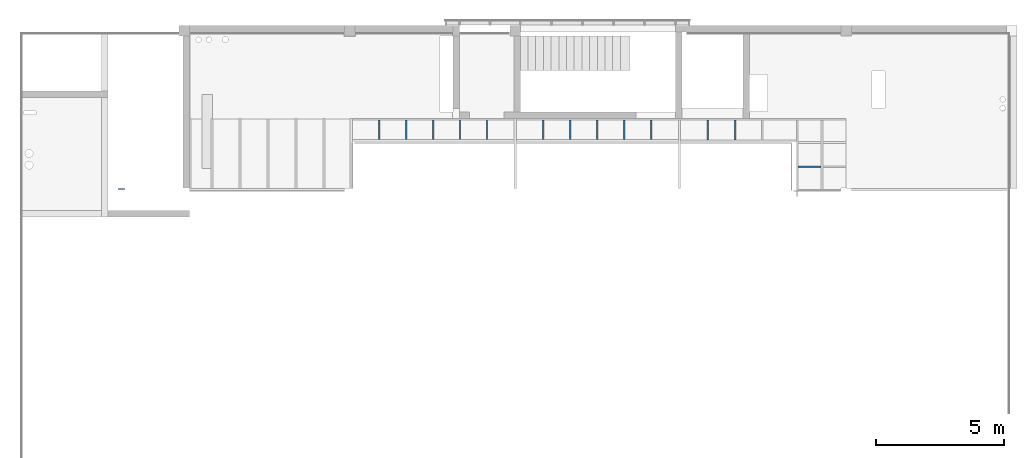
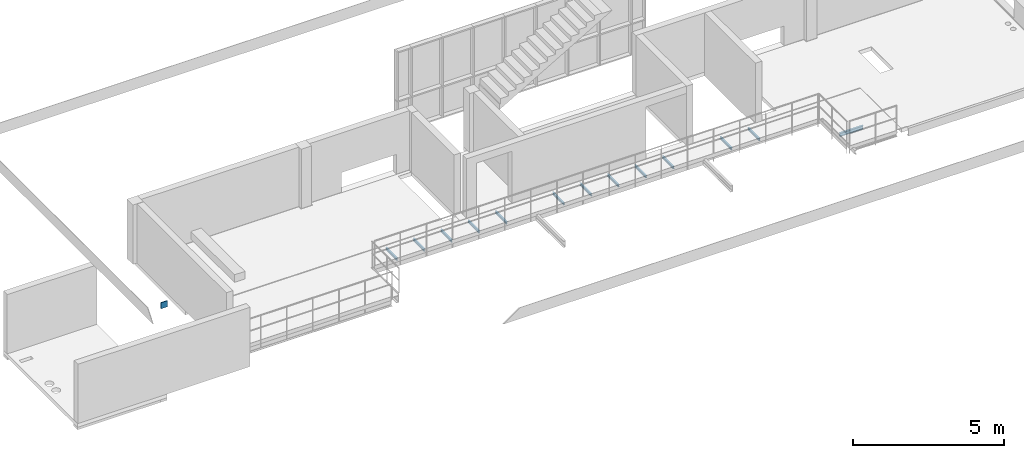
# One storey, part 4 of 8: 14 beams.
"""IFC2X3 building model written with IfcOpenShell, lengths in centimetres."""

from ifc_helpers import new_model, entity, si_unit, converted_unit, derived_unit, direction, frame, frame_2d, origin, origin_2d_with_axis, place, context, subcontext, project, spatial, rectangle, i_section, extrude, material, type_object, element, save


model = new_model("IFC2X3")

# Units and contexts
model_context = context("Model", 3, precision=0.001, world=origin(), true_north=direction((6.12303176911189e-17, 1.0)))
body_context = subcontext(model_context, "Body", "Model", "MODEL_VIEW")
ifc_project = project(units=[si_unit("LENGTHUNIT", "METRE", prefix="CENTI"), si_unit("AREAUNIT", "SQUARE_METRE"), si_unit("VOLUMEUNIT", "CUBIC_METRE"), converted_unit("PLANEANGLEUNIT", "DEGREE", entity("IfcRatioMeasure", 0.0174532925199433), si_unit("PLANEANGLEUNIT", "RADIAN"), dimensions=[0, 0, 0, 0, 0, 0, 0]), si_unit("MASSUNIT", "GRAM", prefix="KILO"), derived_unit("MASSDENSITYUNIT", [(si_unit("MASSUNIT", "GRAM", prefix="KILO"), 1), (si_unit("LENGTHUNIT", "METRE"), -3)]), derived_unit("MOMENTOFINERTIAUNIT", [(si_unit("LENGTHUNIT", "METRE"), 4)]), si_unit("TIMEUNIT", "SECOND"), si_unit("FREQUENCYUNIT", "HERTZ"), si_unit("THERMODYNAMICTEMPERATUREUNIT", "DEGREE_CELSIUS"), derived_unit("THERMALTRANSMITTANCEUNIT", [(si_unit("MASSUNIT", "GRAM", prefix="KILO"), 1), (si_unit("THERMODYNAMICTEMPERATUREUNIT", "KELVIN"), -1), (si_unit("TIMEUNIT", "SECOND"), -3)]), derived_unit("VOLUMETRICFLOWRATEUNIT", [(si_unit("LENGTHUNIT", "METRE"), 3), (si_unit("TIMEUNIT", "SECOND"), -1)]), si_unit("ELECTRICCURRENTUNIT", "AMPERE"), si_unit("ELECTRICVOLTAGEUNIT", "VOLT"), si_unit("POWERUNIT", "WATT"), si_unit("FORCEUNIT", "NEWTON", prefix="KILO"), si_unit("ILLUMINANCEUNIT", "LUX"), si_unit("LUMINOUSFLUXUNIT", "LUMEN"), si_unit("LUMINOUSINTENSITYUNIT", "CANDELA"), derived_unit("USERDEFINED", [(si_unit("MASSUNIT", "GRAM", prefix="KILO"), -1), (si_unit("LENGTHUNIT", "METRE"), -2), (si_unit("TIMEUNIT", "SECOND"), 3), (si_unit("LUMINOUSFLUXUNIT", "LUMEN"), 1)]), derived_unit("LINEARVELOCITYUNIT", [(si_unit("LENGTHUNIT", "METRE"), 1), (si_unit("TIMEUNIT", "SECOND"), -1)]), si_unit("PRESSUREUNIT", "PASCAL"), derived_unit("USERDEFINED", [(si_unit("LENGTHUNIT", "METRE"), -2), (si_unit("MASSUNIT", "GRAM", prefix="KILO"), 1), (si_unit("TIMEUNIT", "SECOND"), -2)]), derived_unit("LINEARFORCEUNIT", [(si_unit("MASSUNIT", "GRAM", prefix="KILO"), 1), (si_unit("LENGTHUNIT", "METRE"), 1), (si_unit("TIMEUNIT", "SECOND"), -2), (si_unit("LENGTHUNIT", "METRE"), -1)]), derived_unit("PLANARFORCEUNIT", [(si_unit("MASSUNIT", "GRAM", prefix="KILO"), 1), (si_unit("LENGTHUNIT", "METRE"), 1), (si_unit("TIMEUNIT", "SECOND"), -2), (si_unit("LENGTHUNIT", "METRE"), -2)])], contexts=[model_context])

# Site, building, storey
site_placement = place(None, origin())
site = spatial("IfcSite", under=ifc_project, at=site_placement, Name="Default", CompositionType="ELEMENT")
building_placement = place(site_placement, origin())
building = spatial("IfcBuilding", under=site, at=building_placement, CompositionType="ELEMENT")
storey_placement = place(building_placement, frame((0.0, 0.0, 290.0)))
storey = spatial("IfcBuildingStorey", under=building, at=storey_placement, Name="Poziom Antresola +2,90", CompositionType="ELEMENT", Elevation=290.0)

# Beams
ifc_material_1 = material(Name="_Beton C30/37")
beam_type_1 = type_object("IfcBeamType", Name="Beton-belka prostokątna:wieniec 25x25", PredefinedType="BEAM", material=ifc_material_1)
beam_1_placement = place(storey_placement, frame((-2249.26511921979, 1467.76745194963, 0.0), z_axis=(0.0, 0.0, 1.0), x_axis=(0.0, 1.0, 0.0)))
element("IfcBeam", 1, at=beam_1_placement, inside=storey, type_object=beam_type_1, material=ifc_material_1, Name="Beton-belka prostokątna:wieniec 25x25", ObjectType="Beton-belka prostokątna:wieniec 25x25", context=body_context, shape_type="SweptSolid", body=[
    extrude(rectangle(XDim=24.9999999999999, YDim=25.0000000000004, at=origin_2d_with_axis()), frame((0.0, 265.0, 277.5), z_axis=(1.0, 0.0, 0.0), x_axis=(0.0, 0.0, -1.0)), (0.0, 0.0, 1.0), 2.49999999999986),
])
ifc_material_2 = material(Name="Stal konstrukcyjna - S235")
beam_type_2 = type_object("IfcBeamType", Name="IPE:IPE100", PredefinedType="NOTDEFINED")
beam_2_placement = place(storey_placement, frame((-1509.26511967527, 1645.4874521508, 0.0), z_axis=(0.0, 0.0, 1.0), x_axis=(0.0, 1.0, 0.0)))
element("IfcBeam", 2, at=beam_2_placement, inside=storey, type_object=beam_type_2, material=ifc_material_2, Name="IPE:IPE100", ObjectType="IPE:IPE100", context=body_context, shape_type="SweptSolid", body=[
    extrude(i_section(OverallWidth=5.50000000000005, OverallDepth=10.0, WebThickness=0.410000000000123, FlangeThickness=0.570000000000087, FilletRadius=0.700000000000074, at=frame_2d((5.41788836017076e-14, 0.0), x_axis=(0.0, 1.0))), frame((16.6399999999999, 0.0, -8.0), z_axis=(1.0, 0.0, 0.0), x_axis=(0.0, 0.0, -1.0)), (0.0, 0.0, 1.0), 74.5000001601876),
])
beam_3_placement = place(storey_placement, frame((-1404.26511967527, 1645.4874521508, 0.0), z_axis=(0.0, 0.0, 1.0), x_axis=(0.0, 1.0, 0.0)))
element("IfcBeam", 3, at=beam_3_placement, inside=storey, type_object=beam_type_2, material=ifc_material_2, Name="IPE:IPE100", ObjectType="IPE:IPE100", context=body_context, shape_type="SweptSolid", body=[
    extrude(i_section(OverallWidth=5.50000000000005, OverallDepth=10.0, WebThickness=0.410000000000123, FlangeThickness=0.570000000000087, FilletRadius=0.700000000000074, at=frame_2d((5.41788836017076e-14, 0.0), x_axis=(0.0, 1.0))), frame((16.6400000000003, 0.0, -8.0), z_axis=(1.0, 0.0, 0.0), x_axis=(0.0, 0.0, -1.0)), (0.0, 0.0, 1.0), 74.5000001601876),
])
beam_4_placement = place(storey_placement, frame((-1299.26511967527, 1645.4874521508, 0.0), z_axis=(0.0, 0.0, 1.0), x_axis=(0.0, 1.0, 0.0)))
element("IfcBeam", 4, at=beam_4_placement, inside=storey, type_object=beam_type_2, material=ifc_material_2, Name="IPE:IPE100", ObjectType="IPE:IPE100", context=body_context, shape_type="SweptSolid", body=[
    extrude(i_section(OverallWidth=5.50000000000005, OverallDepth=10.0, WebThickness=0.410000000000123, FlangeThickness=0.570000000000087, FilletRadius=0.700000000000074, at=frame_2d((5.41788836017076e-14, 0.0), x_axis=(0.0, 1.0))), frame((16.6399999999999, 0.0, -8.0), z_axis=(1.0, 0.0, 0.0), x_axis=(0.0, 0.0, -1.0)), (0.0, 0.0, 1.0), 74.5000001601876),
])
beam_5_placement = place(storey_placement, frame((-1194.26511967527, 1645.4874521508, 0.0), z_axis=(0.0, 0.0, 1.0), x_axis=(0.0, 1.0, 0.0)))
element("IfcBeam", 5, at=beam_5_placement, inside=storey, type_object=beam_type_2, material=ifc_material_2, Name="IPE:IPE100", ObjectType="IPE:IPE100", context=body_context, shape_type="SweptSolid", body=[
    extrude(i_section(OverallWidth=5.50000000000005, OverallDepth=10.0, WebThickness=0.410000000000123, FlangeThickness=0.570000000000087, FilletRadius=0.700000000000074, at=frame_2d((5.41788836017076e-14, 2.16715534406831e-13), x_axis=(0.0, 1.0))), frame((16.6399999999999, 0.0, -8.0), z_axis=(1.0, 0.0, 0.0), x_axis=(0.0, 0.0, -1.0)), (0.0, 0.0, 1.0), 74.5000001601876),
])
beam_6_placement = place(storey_placement, frame((-1089.26511967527, 1645.4874521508, 0.0), z_axis=(0.0, 0.0, 1.0), x_axis=(0.0, 1.0, 0.0)))
element("IfcBeam", 6, at=beam_6_placement, inside=storey, type_object=beam_type_2, material=ifc_material_2, Name="IPE:IPE100", ObjectType="IPE:IPE100", context=body_context, shape_type="SweptSolid", body=[
    extrude(i_section(OverallWidth=5.50000000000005, OverallDepth=10.0, WebThickness=0.410000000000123, FlangeThickness=0.570000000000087, FilletRadius=0.700000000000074, at=frame_2d((5.41788836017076e-14, 0.0), x_axis=(0.0, 1.0))), frame((16.6400000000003, 0.0, -8.0), z_axis=(1.0, 0.0, 0.0), x_axis=(0.0, 0.0, -1.0)), (0.0, 0.0, 1.0), 74.5000001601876),
])
beam_7_placement = place(storey_placement, frame((-764.75176386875, 1655.48745215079, 0.0), z_axis=(0.0, 0.0, 1.0), x_axis=(0.0, 1.0, 0.0)))
element("IfcBeam", 7, at=beam_7_placement, inside=storey, type_object=beam_type_2, material=ifc_material_2, Name="IPE:IPE100", ObjectType="IPE:IPE100", context=body_context, shape_type="SweptSolid", body=[
    extrude(i_section(OverallWidth=5.50000000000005, OverallDepth=10.0, WebThickness=0.410000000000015, FlangeThickness=0.570000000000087, FilletRadius=0.699999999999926, at=frame_2d((5.41788836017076e-14, -1.08357767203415e-13), x_axis=(0.0, 1.0))), frame((6.63999999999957, 0.0, -8.0), z_axis=(1.0, 0.0, 0.0), x_axis=(0.0, 0.0, -1.0)), (0.0, 0.0, 1.0), 74.5000001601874),
])
beam_8_placement = place(storey_placement, frame((-659.751763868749, 1655.48745215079, 0.0), z_axis=(0.0, 0.0, 1.0), x_axis=(0.0, 1.0, 0.0)))
element("IfcBeam", 8, at=beam_8_placement, inside=storey, type_object=beam_type_2, material=ifc_material_2, Name="IPE:IPE100", ObjectType="IPE:IPE100", context=body_context, shape_type="SweptSolid", body=[
    extrude(i_section(OverallWidth=5.50000000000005, OverallDepth=10.0, WebThickness=0.410000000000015, FlangeThickness=0.570000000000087, FilletRadius=0.699999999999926, at=frame_2d((5.41788836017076e-14, 0.0), x_axis=(0.0, 1.0))), frame((6.63999999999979, 0.0, -8.0), z_axis=(1.0, 0.0, 0.0), x_axis=(0.0, 0.0, -1.0)), (0.0, 0.0, 1.0), 74.5000001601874),
])
beam_9_placement = place(storey_placement, frame((-554.751763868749, 1655.48745215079, 0.0), z_axis=(0.0, 0.0, 1.0), x_axis=(0.0, 1.0, 0.0)))
element("IfcBeam", 9, at=beam_9_placement, inside=storey, type_object=beam_type_2, material=ifc_material_2, Name="IPE:IPE100", ObjectType="IPE:IPE100", context=body_context, shape_type="SweptSolid", body=[
    extrude(i_section(OverallWidth=5.50000000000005, OverallDepth=10.0, WebThickness=0.410000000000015, FlangeThickness=0.570000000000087, FilletRadius=0.699999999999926, at=frame_2d((5.41788836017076e-14, 1.08357767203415e-13), x_axis=(0.0, 1.0))), frame((6.63999999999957, 0.0, -8.0), z_axis=(1.0, 0.0, 0.0), x_axis=(0.0, 0.0, -1.0)), (0.0, 0.0, 1.0), 74.5000001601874),
])
beam_10_placement = place(storey_placement, frame((-449.751763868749, 1655.48745215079, 0.0), z_axis=(0.0, 0.0, 1.0), x_axis=(0.0, 1.0, 0.0)))
element("IfcBeam", 10, at=beam_10_placement, inside=storey, type_object=beam_type_2, material=ifc_material_2, Name="IPE:IPE100", ObjectType="IPE:IPE100", context=body_context, shape_type="SweptSolid", body=[
    extrude(i_section(OverallWidth=5.49999999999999, OverallDepth=10.0, WebThickness=0.409999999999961, FlangeThickness=0.570000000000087, FilletRadius=0.700000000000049, at=frame_2d((5.41788836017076e-14, -8.12683254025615e-14), x_axis=(0.0, 1.0))), frame((6.63999999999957, 0.0, -8.0), z_axis=(1.0, 0.0, 0.0), x_axis=(0.0, 0.0, -1.0)), (0.0, 0.0, 1.0), 74.5000001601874),
])
beam_11_placement = place(storey_placement, frame((-228.265106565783, 1624.96745293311, 0.0), z_axis=(0.0, 0.0, 1.0), x_axis=(0.0, 1.0, 0.0)))
element("IfcBeam", 11, at=beam_11_placement, inside=storey, type_object=beam_type_2, material=ifc_material_2, Name="IPE:IPE100", ObjectType="IPE:IPE100", context=body_context, shape_type="SweptSolid", body=[
    extrude(i_section(OverallWidth=5.50000000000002, OverallDepth=10.0, WebThickness=0.410000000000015, FlangeThickness=0.570000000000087, FilletRadius=0.700000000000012, at=frame_2d((5.41788836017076e-14, -1.35447209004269e-14), x_axis=(0.0, 1.0))), frame((34.6600000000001, 0.0, -8.0), z_axis=(1.0, 0.0, 0.0), x_axis=(0.0, 0.0, -1.0)), (0.0, 0.0, 1.0), 76.9999993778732),
])
beam_12_placement = place(storey_placement, frame((-122.265106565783, 1624.96745293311, 0.0), z_axis=(0.0, 0.0, 1.0), x_axis=(0.0, 1.0, 0.0)))
element("IfcBeam", 12, at=beam_12_placement, inside=storey, type_object=beam_type_2, material=ifc_material_2, Name="IPE:IPE100", ObjectType="IPE:IPE100", context=body_context, shape_type="SweptSolid", body=[
    extrude(i_section(OverallWidth=5.50000000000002, OverallDepth=10.0, WebThickness=0.410000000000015, FlangeThickness=0.570000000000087, FilletRadius=0.700000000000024, at=frame_2d((5.41788836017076e-14, 0.0), x_axis=(0.0, 1.0))), frame((34.6599999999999, 0.0, -8.0), z_axis=(1.0, 0.0, 0.0), x_axis=(0.0, 0.0, -1.0)), (0.0, 0.0, 1.0), 76.9999993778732),
])
beam_13_placement = place(storey_placement, frame((-869.75176386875, 1655.48745215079, 0.0), z_axis=(0.0, 0.0, 1.0), x_axis=(0.0, 1.0, 0.0)))
element("IfcBeam", 13, at=beam_13_placement, inside=storey, type_object=beam_type_2, material=ifc_material_2, Name="IPE:IPE100", ObjectType="IPE:IPE100", context=body_context, shape_type="SweptSolid", body=[
    extrude(i_section(OverallWidth=5.50000000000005, OverallDepth=10.0, WebThickness=0.410000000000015, FlangeThickness=0.570000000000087, FilletRadius=0.699999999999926, at=frame_2d((5.41788836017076e-14, -3.24851257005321e-13), x_axis=(0.0, 1.0))), frame((6.63999999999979, 0.0, -8.0), z_axis=(1.0, 0.0, 0.0), x_axis=(0.0, 0.0, -1.0)), (0.0, 0.0, 1.0), 74.5000001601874),
])
beam_type_3 = type_object("IfcBeamType", Name="IPE:IPE140", PredefinedType="NOTDEFINED")
beam_14_placement = place(storey_placement, frame((123.234891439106, 1555.1274524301, 0.0)))
element("IfcBeam", 14, at=beam_14_placement, inside=storey, type_object=beam_type_3, material=ifc_material_2, Name="IPE:IPE140", ObjectType="IPE:IPE140", context=body_context, shape_type="SweptSolid", body=[
    extrude(i_section(OverallWidth=7.30000000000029, OverallDepth=14.0, WebThickness=0.469999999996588, FlangeThickness=0.69000000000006, FilletRadius=0.700000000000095, at=frame_2d((8.12683254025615e-14, 0.0), x_axis=(0.0, 1.0))), frame((0.00499729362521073, 0.0, -10.0), z_axis=(1.0, 0.0, 0.0), x_axis=(0.0, 0.0, -1.0)), (0.0, 0.0, 1.0), 89.39),
])

save(model, "model.ifc")
